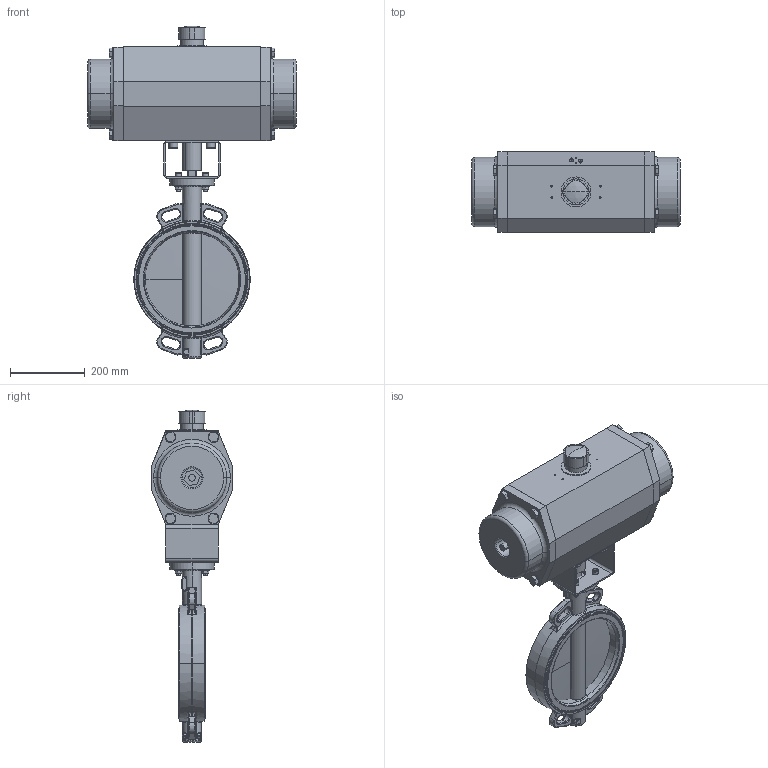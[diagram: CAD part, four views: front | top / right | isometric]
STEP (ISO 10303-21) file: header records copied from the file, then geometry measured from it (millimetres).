
FILE_DESCRIPTION (( 'STEP AP214' ), '1' );
FILE_NAME ('VTB200 DN250 + AP8S 2013.STEP', '2015-12-02T15:40:49', ( '' ), ( '' ), 'SwSTEP 2.0', 'SolidWorks 2013', '' );
FILE_SCHEMA (( 'AUTOMOTIVE_DESIGN' ));
Length unit declared in the file: millimetre
Products named in the file (13): VTB200 Wafer DN250 BS 2013; Typeplaatje xxmm; Klep VTB200 DN250 2013; Huis met zitting DN250 2013; VTB200 DN250 + AP8S 2013; YA3622D50103K100; hex nut style 1 gradeab_iso_Hexagon Nut ISO - 4032 - M10 - W - N; socket head cap screw_iso_ISO 4762 M10 x 40 --- 40N; YB150100F14F10-4; plain washer normal grade c_iso_Washer ISO 7091 - 10; socket head cap screw_iso_ISO 4762 M16 x 25 --- 25N; Verloopvierkant vk 36 vk 22; AP8_Default<As Machined>
Assembly tree (24 placements, depth 3):
  VTB200 DN250 + AP8S 2013
    VTB200 Wafer DN250 BS 2013
      Huis met zitting DN250 2013
      Klep VTB200 DN250 2013
      Typeplaatje xxmm
    AP8_Default<As Machined>
    Verloopvierkant vk 36 vk 22
    socket head cap screw_iso_ISO 4762 M16 x 25 --- 25N  x4
    plain washer normal grade c_iso_Washer ISO 7091 - 10  x4
    YB150100F14F10-4
    socket head cap screw_iso_ISO 4762 M10 x 40 --- 40N  x4
    hex nut style 1 gradeab_iso_Hexagon Nut ISO - 4032 - M10 - W - N  x4
    YA3622D50103K100
Bounding box: 557 x 215 x 886 mm (x, y, z)
Volume: 27262909.2 mm3; surface area: 1227471 mm2
Topology: 34 solids, 34 shells, 1393 faces, 3303 edges, 2012 vertices
Faces by surface type: plane 570, cylinder 352, bspline 195, torus 158, cone 116, sphere 2
Entity records: 53773 total; most frequent: CARTESIAN_POINT 25397, ORIENTED_EDGE 5358, DIRECTION 4952, EDGE_CURVE 2679, AXIS2_PLACEMENT_3D 1859, VERTEX_POINT 1682, EDGE_LOOP 1251, LINE 1234
